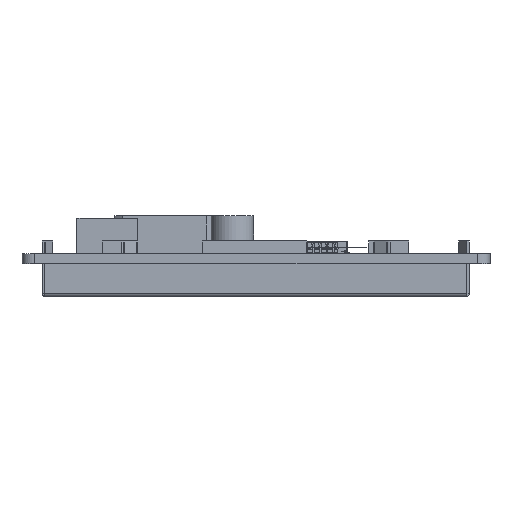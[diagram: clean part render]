
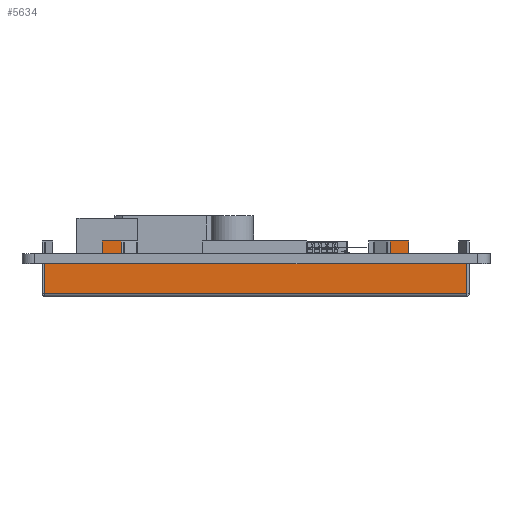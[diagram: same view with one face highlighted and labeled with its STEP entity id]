
A CAD part, left-side view. The second image highlights one B-rep face of the part: STEP entity #5634.
In plain terms, the highlighted planar face has unit normal (-1, 0, 0).
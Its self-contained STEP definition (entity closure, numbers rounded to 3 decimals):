
#3445=PLANE('',#51359);
#5634=ADVANCED_FACE('',(#8251),#3445,.F.);
#8251=FACE_OUTER_BOUND('',#10558,.T.);
#10558=EDGE_LOOP('',(#22612,#22613,#22614,#22615,#22616,#22617,#22618,#22619,
#22620,#22621,#22622,#22623,#22624,#22625,#22626,#22627));
#22612=ORIENTED_EDGE('',*,*,#33663,.T.);
#22613=ORIENTED_EDGE('',*,*,#33664,.F.);
#22614=ORIENTED_EDGE('',*,*,#33665,.F.);
#22615=ORIENTED_EDGE('',*,*,#33666,.T.);
#22616=ORIENTED_EDGE('',*,*,#33667,.T.);
#22617=ORIENTED_EDGE('',*,*,#33668,.T.);
#22618=ORIENTED_EDGE('',*,*,#33661,.T.);
#22619=ORIENTED_EDGE('',*,*,#33669,.F.);
#22620=ORIENTED_EDGE('',*,*,#33670,.T.);
#22621=ORIENTED_EDGE('',*,*,#33671,.F.);
#22622=ORIENTED_EDGE('',*,*,#33672,.F.);
#22623=ORIENTED_EDGE('',*,*,#33673,.T.);
#22624=ORIENTED_EDGE('',*,*,#33655,.T.);
#22625=ORIENTED_EDGE('',*,*,#33674,.F.);
#22626=ORIENTED_EDGE('',*,*,#33675,.F.);
#22627=ORIENTED_EDGE('',*,*,#33676,.T.);
#27420=VERTEX_POINT('',#76329);
#27421=VERTEX_POINT('',#76330);
#27426=VERTEX_POINT('',#76341);
#27427=VERTEX_POINT('',#76343);
#27428=VERTEX_POINT('',#76347);
#27429=VERTEX_POINT('',#76348);
#27430=VERTEX_POINT('',#76350);
#27431=VERTEX_POINT('',#76352);
#27432=VERTEX_POINT('',#76354);
#27433=VERTEX_POINT('',#76356);
#27434=VERTEX_POINT('',#76359);
#27435=VERTEX_POINT('',#76361);
#27436=VERTEX_POINT('',#76363);
#27437=VERTEX_POINT('',#76365);
#27438=VERTEX_POINT('',#76368);
#27439=VERTEX_POINT('',#76370);
#33655=EDGE_CURVE('',#27420,#27421,#41376,.T.);
#33661=EDGE_CURVE('',#27427,#27426,#41382,.T.);
#33663=EDGE_CURVE('',#27428,#27429,#41384,.T.);
#33664=EDGE_CURVE('',#27430,#27429,#41385,.T.);
#33665=EDGE_CURVE('',#27431,#27430,#41386,.T.);
#33666=EDGE_CURVE('',#27431,#27432,#41387,.T.);
#33667=EDGE_CURVE('',#27432,#27433,#41388,.T.);
#33668=EDGE_CURVE('',#27433,#27427,#41389,.T.);
#33669=EDGE_CURVE('',#27434,#27426,#41390,.T.);
#33670=EDGE_CURVE('',#27434,#27435,#41391,.T.);
#33671=EDGE_CURVE('',#27436,#27435,#41392,.T.);
#33672=EDGE_CURVE('',#27437,#27436,#41393,.T.);
#33673=EDGE_CURVE('',#27437,#27420,#41394,.T.);
#33674=EDGE_CURVE('',#27438,#27421,#41395,.T.);
#33675=EDGE_CURVE('',#27439,#27438,#41396,.T.);
#33676=EDGE_CURVE('',#27439,#27428,#41397,.T.);
#41376=LINE('',#76328,#47165);
#41382=LINE('',#76342,#47171);
#41384=LINE('',#76346,#47173);
#41385=LINE('',#76349,#47174);
#41386=LINE('',#76351,#47175);
#41387=LINE('',#76353,#47176);
#41388=LINE('',#76355,#47177);
#41389=LINE('',#76357,#47178);
#41390=LINE('',#76358,#47179);
#41391=LINE('',#76360,#47180);
#41392=LINE('',#76362,#47181);
#41393=LINE('',#76364,#47182);
#41394=LINE('',#76366,#47183);
#41395=LINE('',#76367,#47184);
#41396=LINE('',#76369,#47185);
#41397=LINE('',#76371,#47186);
#47165=VECTOR('',#62662,1.);
#47171=VECTOR('',#62670,1.);
#47173=VECTOR('',#62674,1.);
#47174=VECTOR('',#62675,1.);
#47175=VECTOR('',#62676,1.);
#47176=VECTOR('',#62677,1.);
#47177=VECTOR('',#62678,1.);
#47178=VECTOR('',#62679,1.);
#47179=VECTOR('',#62680,1.);
#47180=VECTOR('',#62681,1.);
#47181=VECTOR('',#62682,1.);
#47182=VECTOR('',#62683,1.);
#47183=VECTOR('',#62684,1.);
#47184=VECTOR('',#62685,1.);
#47185=VECTOR('',#62686,1.);
#47186=VECTOR('',#62687,1.);
#51359=AXIS2_PLACEMENT_3D('',#76372,#62688,#62689);
#62662=DIRECTION('',(0.,1.,0.));
#62670=DIRECTION('',(0.,1.,0.));
#62674=DIRECTION('',(0.,1.,0.));
#62675=DIRECTION('',(0.,0.,-1.));
#62676=DIRECTION('',(0.,-1.,0.));
#62677=DIRECTION('',(0.,0.,-1.));
#62678=DIRECTION('',(0.,1.,0.));
#62679=DIRECTION('',(0.,0.,-1.));
#62680=DIRECTION('',(0.,0.,-1.));
#62681=DIRECTION('',(0.,-1.,0.));
#62682=DIRECTION('',(0.,0.,-1.));
#62683=DIRECTION('',(0.,-1.,0.));
#62684=DIRECTION('',(0.,0.,-1.));
#62685=DIRECTION('',(0.,0.,1.));
#62686=DIRECTION('',(0.,1.,0.));
#62687=DIRECTION('',(0.,0.,1.));
#62688=DIRECTION('',(1.,0.,0.));
#62689=DIRECTION('',(0.,-1.,0.));
#76328=CARTESIAN_POINT('',(223.499,-16.955,-1.6));
#76329=CARTESIAN_POINT('',(223.499,41.205,-1.6));
#76330=CARTESIAN_POINT('',(223.499,50.445,-1.6));
#76341=CARTESIAN_POINT('',(223.499,38.205,-1.6));
#76342=CARTESIAN_POINT('',(223.499,-16.955,-1.6));
#76343=CARTESIAN_POINT('',(223.499,-4.715,-1.6));
#76346=CARTESIAN_POINT('',(223.499,-16.955,-1.6));
#76347=CARTESIAN_POINT('',(223.499,-16.955,-1.6));
#76348=CARTESIAN_POINT('',(223.499,-7.715,-1.6));
#76349=CARTESIAN_POINT('',(223.499,-7.715,0.));
#76350=CARTESIAN_POINT('',(223.499,-7.715,2.));
#76351=CARTESIAN_POINT('',(223.499,-4.75,2.));
#76352=CARTESIAN_POINT('',(223.499,-4.75,2.));
#76353=CARTESIAN_POINT('',(223.499,-4.75,2.));
#76354=CARTESIAN_POINT('',(223.499,-4.75,0.));
#76355=CARTESIAN_POINT('',(223.499,-7.715,0.));
#76356=CARTESIAN_POINT('',(223.499,-4.715,0.));
#76357=CARTESIAN_POINT('',(223.499,-4.715,0.));
#76358=CARTESIAN_POINT('',(223.499,38.205,0.));
#76359=CARTESIAN_POINT('',(223.499,38.205,0.));
#76360=CARTESIAN_POINT('',(223.499,41.205,0.));
#76361=CARTESIAN_POINT('',(223.499,38.194,0.));
#76362=CARTESIAN_POINT('',(223.499,38.194,2.));
#76363=CARTESIAN_POINT('',(223.499,38.194,2.));
#76364=CARTESIAN_POINT('',(223.499,41.205,2.));
#76365=CARTESIAN_POINT('',(223.499,41.205,2.));
#76366=CARTESIAN_POINT('',(223.499,41.205,0.));
#76367=CARTESIAN_POINT('',(223.499,50.445,-6.4));
#76368=CARTESIAN_POINT('',(223.499,50.445,-6.4));
#76369=CARTESIAN_POINT('',(223.499,-16.955,-6.4));
#76370=CARTESIAN_POINT('',(223.499,-16.955,-6.4));
#76371=CARTESIAN_POINT('',(223.499,-16.955,-6.4));
#76372=CARTESIAN_POINT('',(223.499,-16.955,-6.4));
